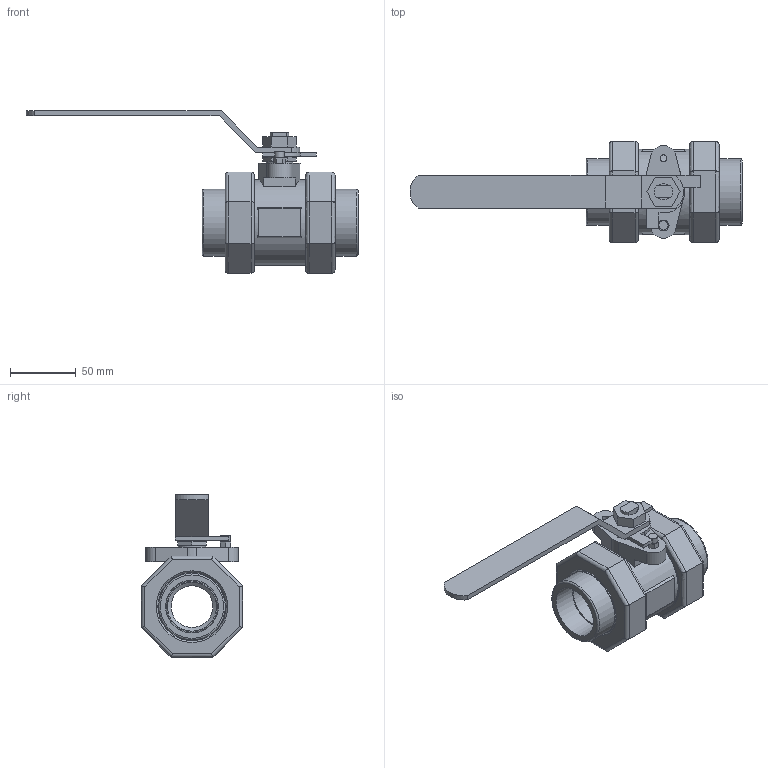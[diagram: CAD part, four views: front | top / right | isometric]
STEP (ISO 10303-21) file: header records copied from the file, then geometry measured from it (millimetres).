
FILE_DESCRIPTION((' '),'2;1');
FILE_NAME('N:\Technical Support\Private\Jomar Valve CAD\Ball Valves\CS and SS\2002N-DUE\1.25 T-CS[SS]-2002N-DUE (100-996 [100-986])FusionCopy.stp.step','2017-01-24T13:05:34',(' '),(' '),' ','ACIS',' ');
FILE_SCHEMA(('CONFIG_CONTROL_DESIGN'));
Length unit declared in the file: inch
Products named in the file (15): N:\Technical Support\Private\Jomar Valve CAD\Ball Valves\CS and SS\2002N-DUE\1.25 T-CS[SS]-2002N-DUE (100-996 [100-986])FusionCopy.stp.step; Body1; Body2; Body3; Body4; Body5; Body6; Body7; Body8; Body9; Body10; Body11; Body12; Body13; Body14
Assembly tree (14 placements, depth 2):
  N:\Technical Support\Private\Jomar Valve CAD\Ball Valves\CS and SS\2002N-DUE\1.25 T-CS[SS]-2002N-DUE (100-996 [100-986])FusionCopy.stp.step
    Body1
    Body2
    Body3
    Body4
    Body5
    Body6
    Body7
    Body8
    Body9
    Body10
    Body11
    Body12
    Body13
    Body14
Bounding box: 253.28 x 77.22 x 123.96 mm (x, y, z)
Volume: 352616.8 mm3; surface area: 106203.8 mm2
Topology: 14 solids, 14 shells, 204 faces, 438 edges, 280 vertices
Faces by surface type: plane 95, bspline 54, cylinder 51, cone 3, torus 1
Full cylindrical faces by diameter (mm): 5.207 x2, 6.248 x1, 7.036 x1, 12.395 x1, 14.859 x1, 20.701 x1, 31.877 x2, 37.389 x1, 44.577 x2, 50.47 x2, 50.927 x1, 51.943 x1, 52.07 x1, 55.626 x1, 58.928 x1, 59.182 x1, 65.278 x1, 66.167 x1, 67.945 x1
Entity records: 7840 total; most frequent: CARTESIAN_POINT 1489, DIRECTION 887, ORIENTED_EDGE 784, EDGE_CURVE 392, AXIS2_PLACEMENT_3D 318, EDGE_LOOP 287, VERTEX_POINT 273, VECTOR 251
